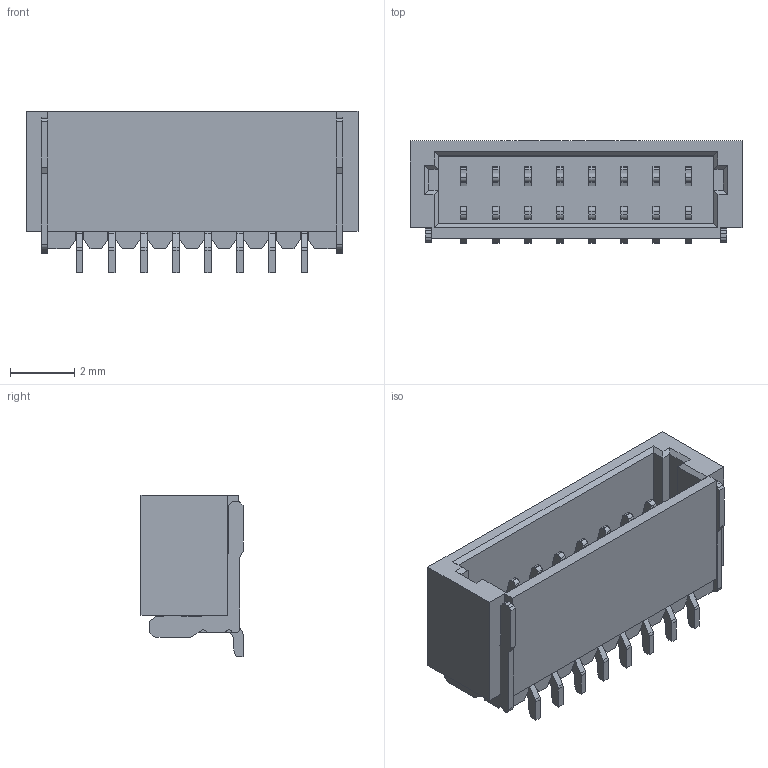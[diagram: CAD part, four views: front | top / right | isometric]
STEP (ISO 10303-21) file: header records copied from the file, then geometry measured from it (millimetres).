
FILE_DESCRIPTION (( 'STEP AP203' ), '1' );
FILE_NAME ('GT-A1002WRS-108SBT01.STEP', '2024-07-15T01:25:46', ( '' ), ( '' ), 'SwSTEP 2.0', 'SolidWorks 2020', '' );
FILE_SCHEMA (( 'CONFIG_CONTROL_DESIGN' ));
Length unit declared in the file: millimetre
Products named in the file (5): WO.stp; A1001.stp; 5.stp; GT-A1002WRS-108SBT01.stp; GT-A1002WRS-108SBT01
Assembly tree (24 placements, depth 3):
  GT-A1002WRS-108SBT01
    GT-A1002WRS-108SBT01.stp
      A1001.stp
      WO.stp  x20
      5.stp  x2
Bounding box: 10.35 x 3.18 x 5.05 mm (x, y, z)
Volume: 80.2 mm3; surface area: 448 mm2
Topology: 23 solids, 23 shells, 1474 faces, 4188 edges, 2788 vertices
Faces by surface type: plane 963, cylinder 440, bspline 71
Entity records: 20930 total; most frequent: CARTESIAN_POINT 6931, ORIENTED_EDGE 2862, DIRECTION 2313, EDGE_CURVE 1431, LINE 1209, VECTOR 1209, VERTEX_POINT 950, EDGE_LOOP 575
